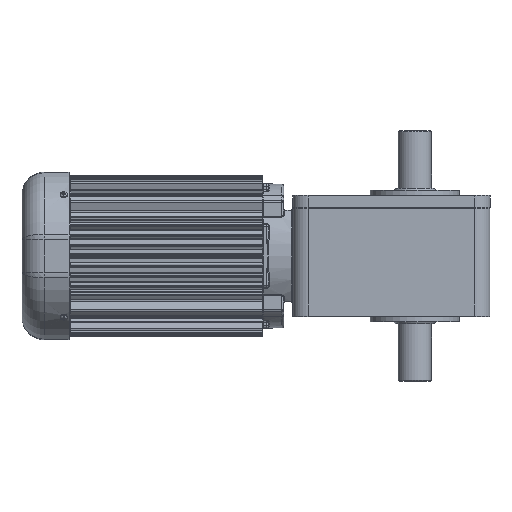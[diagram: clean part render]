
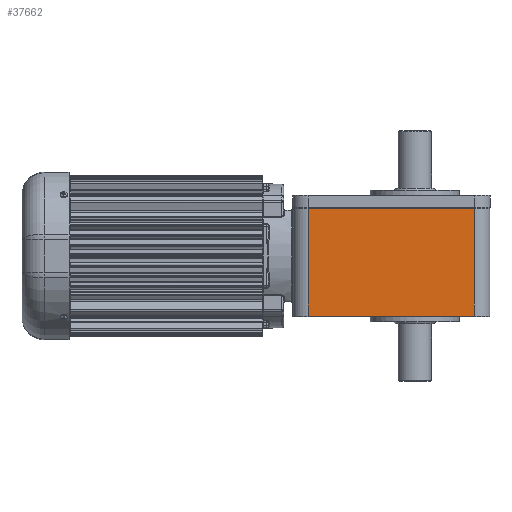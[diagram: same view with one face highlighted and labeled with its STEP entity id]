
A CAD part, front view. The second image highlights one B-rep face of the part: STEP entity #37662.
In plain terms, the highlighted planar face has unit normal (0, -1, 0).
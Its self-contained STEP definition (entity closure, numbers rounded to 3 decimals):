
#1397=PLANE('',#41502);
#4956=FACE_OUTER_BOUND('',#7248,.T.);
#7248=EDGE_LOOP('',(#32561,#32562,#32563,#32564));
#12597=LINE('',#67569,#15111);
#12626=LINE('',#67673,#15140);
#12637=LINE('',#67734,#15151);
#12638=LINE('',#67736,#15152);
#15111=VECTOR('',#50693,159.);
#15140=VECTOR('',#50820,159.);
#15151=VECTOR('',#50863,103.);
#15152=VECTOR('',#50866,103.);
#18333=VERTEX_POINT('',#67563);
#18334=VERTEX_POINT('',#67567);
#18347=VERTEX_POINT('',#67615);
#18360=VERTEX_POINT('',#67669);
#23161=EDGE_CURVE('',#18334,#18333,#12597,.T.);
#23213=EDGE_CURVE('',#18347,#18360,#12626,.T.);
#23234=EDGE_CURVE('',#18333,#18347,#12637,.T.);
#23235=EDGE_CURVE('',#18334,#18360,#12638,.T.);
#32561=ORIENTED_EDGE('',*,*,#23213,.F.);
#32562=ORIENTED_EDGE('',*,*,#23234,.F.);
#32563=ORIENTED_EDGE('',*,*,#23161,.F.);
#32564=ORIENTED_EDGE('',*,*,#23235,.T.);
#37662=ADVANCED_FACE('',(#4956),#1397,.T.);
#41502=AXIS2_PLACEMENT_3D('',#67735,#50864,#50865);
#50693=DIRECTION('',(1.,0.,0.));
#50820=DIRECTION('',(-1.,0.,0.));
#50863=DIRECTION('',(0.,0.,-1.));
#50864=DIRECTION('center_axis',(0.,-1.,0.));
#50865=DIRECTION('ref_axis',(0.,0.,-1.));
#50866=DIRECTION('',(0.,0.,-1.));
#67563=CARTESIAN_POINT('',(57.,-104.,45.5));
#67567=CARTESIAN_POINT('',(-102.,-104.,45.5));
#67569=CARTESIAN_POINT('',(-102.,-104.,45.5));
#67615=CARTESIAN_POINT('',(57.,-104.,-57.5));
#67669=CARTESIAN_POINT('',(-102.,-104.,-57.5));
#67673=CARTESIAN_POINT('',(57.,-104.,-57.5));
#67734=CARTESIAN_POINT('',(57.,-104.,45.5));
#67735=CARTESIAN_POINT('Origin',(57.,-104.,0.));
#67736=CARTESIAN_POINT('',(-102.,-104.,45.5));
